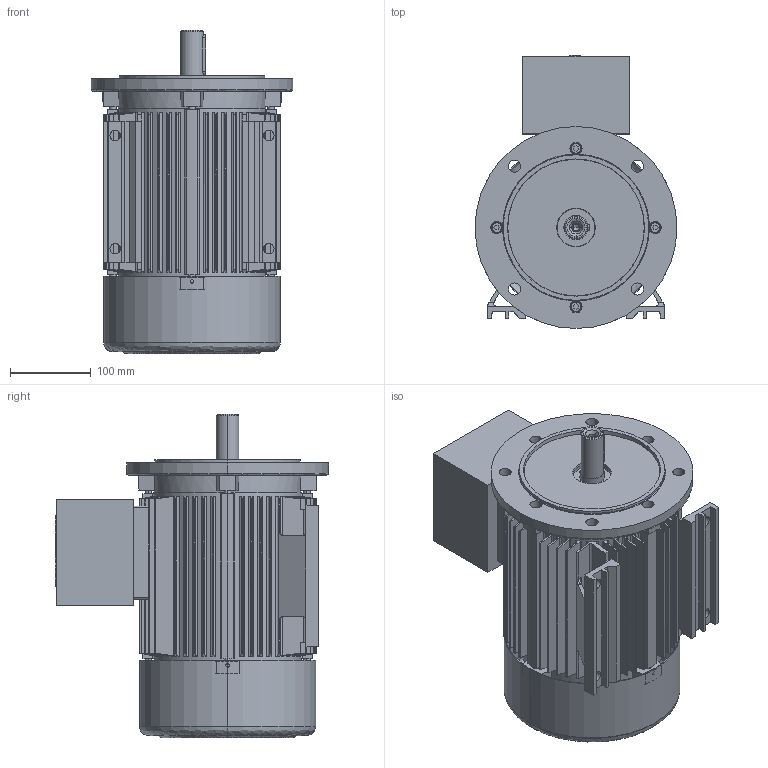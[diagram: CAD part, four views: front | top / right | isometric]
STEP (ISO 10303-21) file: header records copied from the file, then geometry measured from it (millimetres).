
FILE_DESCRIPTION (( 'STEP AP214' ), '1' );
FILE_NAME ('20.18394-E 5AT 112 B35 Exd STANDK.STEP', '2018-11-15T08:57:38', ( '' ), ( '' ), 'SwSTEP 2.0', 'SolidWorks 2018', '' );
FILE_SCHEMA (( 'AUTOMOTIVE_DESIGN' ));
Length unit declared in the file: millimetre
Products named in the file (1): 20.18394-E 5AT 112 B35 Exd STANDK
Bounding box: 249.9 x 337.95 x 399.8 mm (x, y, z)
Volume: 6150199.2 mm3; surface area: 1152178 mm2
Topology: 11 solids, 11 shells, 997 faces, 2534 edges, 1653 vertices
Faces by surface type: cylinder 406, plane 404, cone 153, bspline 18, torus 16
Entity records: 41986 total; most frequent: CARTESIAN_POINT 10984, ORIENTED_EDGE 5036, DIRECTION 4731, EDGE_CURVE 2518, AXIS2_PLACEMENT_3D 1759, VERTEX_POINT 1653, LINE 1213, VECTOR 1213
